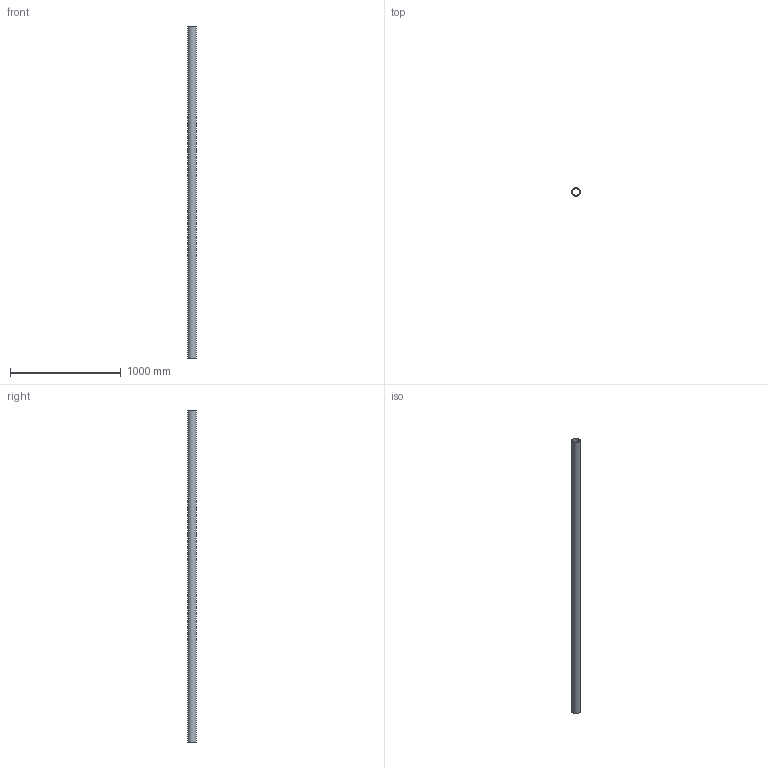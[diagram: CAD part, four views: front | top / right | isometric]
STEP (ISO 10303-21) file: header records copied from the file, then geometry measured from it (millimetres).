
FILE_DESCRIPTION(/* description */ (''),/* implementation_level */ '2;1');
FILE_NAME(/* name */ 'Z:\Geberit\Export\Export18\Rohr PE_Ipart\stp\307000.stp',/* time_stamp */ '2014-08-26T22:07:51+02:00',/* author */ ('Bründl'),/* organization */ (''),/* preprocessor_version */ 'ST-DEVELOPER v15.2',/* originating_system */ 'Autodesk Inventor 2014',/* authorisation */ '');
FILE_SCHEMA (('AUTOMOTIVE_DESIGN { 1 0 10303 214 3 1 1 }'));
Length unit declared in the file: millimetre
Products named in the file (1): 307000
Bounding box: 75 x 75 x 3000 mm (x, y, z)
Volume: 2422544.9 mm3; surface area: 1347473.3 mm2
Topology: 1 solids, 1 shells, 4 faces, 6 edges, 4 vertices
Faces by surface type: cylinder 2, plane 2
Full cylindrical faces by diameter (mm): 67.8 x1, 75 x1
Entity records: 113 total; most frequent: DIRECTION 18, CARTESIAN_POINT 13, AXIS2_PLACEMENT_3D 9, EDGE_LOOP 8, ORIENTED_EDGE 8, FACE_BOUND 6, STYLED_ITEM 5, CIRCLE 4
